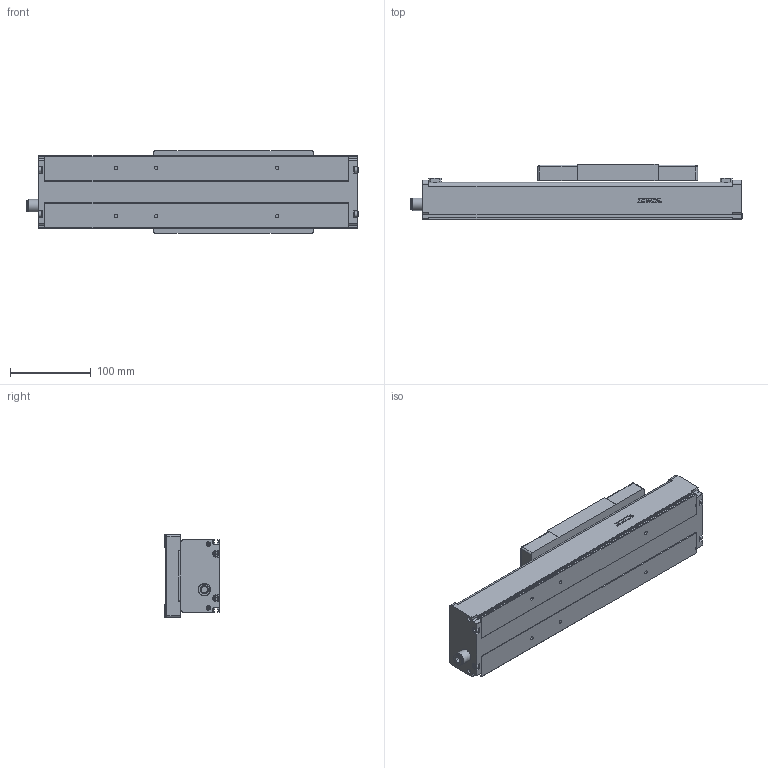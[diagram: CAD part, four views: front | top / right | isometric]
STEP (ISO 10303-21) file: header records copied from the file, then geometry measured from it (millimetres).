
FILE_DESCRIPTION(/* description */ (''),/* implementation_level */ '2;1');
FILE_NAME(/* name */ 'D:\混合母檔20191031\混和母檔\混和母檔\bin\Debug\Download\3D\KS90-5C-100AF0\KS90-5C-100AF0.stp',/* time_stamp */ '2019-11-04T14:32:29+08:00',/* author */ ('user'),/* organization */ (''),/* preprocessor_version */ 'ST-DEVELOPER v16.13',/* originating_system */ 'Autodesk Inventor 2018',/* authorisation */ '');
FILE_SCHEMA (('AUTOMOTIVE_DESIGN { 1 0 10303 214 3 1 1 }'));
Length unit declared in the file: millimetre
Products named in the file (3): KS90-5C-100AF0; KS90-F0; KS90-SL
Assembly tree (2 placements, depth 2):
  KS90-5C-100AF0
    KS90-F0
    KS90-SL
Bounding box: 411.6 x 68.5 x 102.4 mm (x, y, z)
Volume: 891313 mm3; surface area: 294018.9 mm2
Topology: 3 solids, 13 shells, 1013 faces, 2774 edges, 1830 vertices
Faces by surface type: plane 563, cylinder 142, bspline 136, cone 120, torus 48, sphere 4
Full cylindrical faces by diameter (mm): 2.113 x2, 2.459 x8, 2.5 x4, 2.693 x8, 3 x12, 3.242 x6, 3.5 x8, 4 x7, 4.134 x6, 4.5 x8, 4.917 x4, 5.5 x12, 6 x3, 7 x4, 8 x2, 10.437 x1, 11 x1, 11.5 x1, 14 x1, 15.538 x1, 28 x1, 30 x1
Entity records: 37725 total; most frequent: CARTESIAN_POINT 14028, ORIENTED_EDGE 4998, DIRECTION 4424, EDGE_CURVE 2499, VERTEX_POINT 1721, LINE 1498, VECTOR 1498, AXIS2_PLACEMENT_3D 1463
